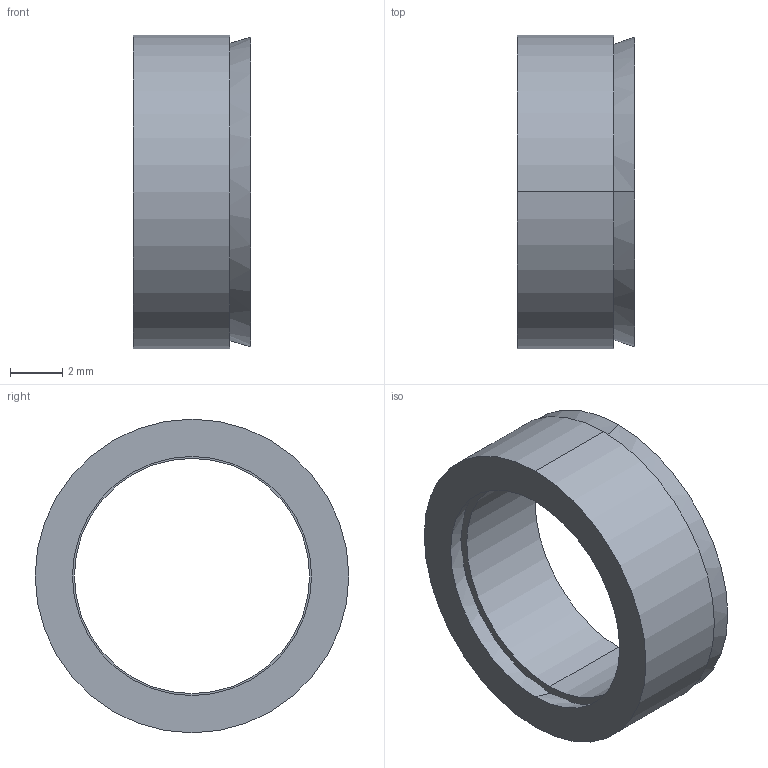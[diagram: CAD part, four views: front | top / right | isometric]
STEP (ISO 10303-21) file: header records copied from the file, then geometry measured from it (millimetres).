
FILE_DESCRIPTION (( 'STEP AP203' ), '1' );
FILE_NAME ('R-9-12.STEP', '2017-11-06T01:25:19', ( 'MYCOM' ), ( '' ), 'SwSTEP 2.0', 'SolidWorks 2015', '' );
FILE_SCHEMA (( 'CONFIG_CONTROL_DESIGN' ));
Length unit declared in the file: millimetre
Products named in the file (1): R-9-12
Bounding box: 4.5 x 12 x 12 mm (x, y, z)
Surface area: 613.7 mm2 (no closed solid volume)
Topology: 0 solids, 2 shells, 12 faces, 24 edges, 16 vertices
Faces by surface type: cone 4, cylinder 4, plane 4
Entity records: 406 total; most frequent: DIRECTION 66, CARTESIAN_POINT 53, ORIENTED_EDGE 48, AXIS2_PLACEMENT_3D 29, EDGE_CURVE 24, CIRCLE 16, EDGE_LOOP 16, VERTEX_POINT 16
